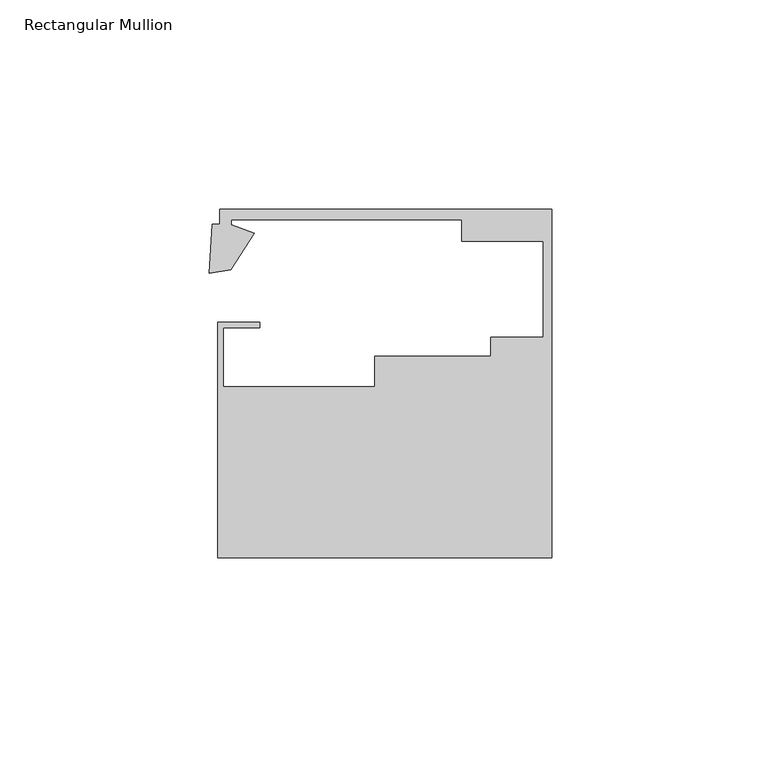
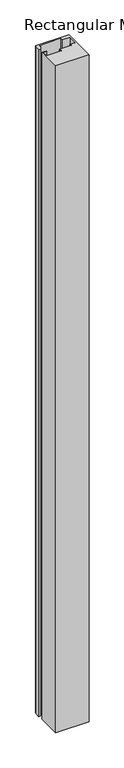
"""IFC4 building model written with IfcOpenShell, lengths in millimetres: member geometry, Rectangular Mullion : Danpal_NM_End-Mullion_B1."""

from ifc_helpers import new_model, si_unit, frame, origin, place, context, project, spatial, polyline, outline, extrude, source, transform, mapped, element, save


def rectangular_mullion_ef4c3dbc(model_context):
    return source(origin(), model_context, "Body", "SweptSolid", [
        extrude(outline(polyline([(0.0, -68.4940825), (-79.7784606, -68.4940825), (-79.7784606, -12.280939), (-69.8282946, -12.280939), (-69.8282946, -13.5916994), (-78.4582695, -13.5916994), (-78.4582695, -27.6399085), (-42.2578709, -27.6399085), (-42.2684147, -20.3894746), (-14.6000003, -20.3492381), (-14.6000003, -15.7940824), (-2.0000001, -15.7940824), (-2.0000001, 7.1181946), (-21.5478166, 7.1181946), (-21.5478166, 12.3181946), (-76.6478166, 12.3181946), (-76.6478166, 11.1168176), (-71.0577359, 9.0180613), (-76.7540801, 0.319325), (-81.8779002, -0.484903), (-81.1597999, 11.1413992), (-79.3474874, 11.1413992), (-79.3474874, 14.8003189), (0.0, 14.8051514), (0.0, -68.4940825)])), frame((0.0, 0.0, -1684.8416832), z_axis=(0.0, 0.0, 1.0), x_axis=(1.0, 0.0, 0.0)), (0.0, 0.0, 1.0), 1684.8416832),
    ])


if __name__ == "__main__":
    model = new_model("IFC4")
    model_context = context("Model", 3, world=origin())
    ifc_project = project(units=[si_unit("LENGTHUNIT", "METRE", prefix="MILLI")], contexts=[model_context])
    site = spatial("IfcSite", under=ifc_project)
    building = spatial("IfcBuilding", under=site)
    placement = place(None, origin())
    rectangular_mullion_shape = rectangular_mullion_ef4c3dbc(model_context)
    element("IfcMember", 1, ObjectType="Rectangular Mullion : Danpal_NM_End-Mullion_B1", at=placement, inside=building, context=model_context, shape_type="MappedRepresentation", body=[
        mapped(rectangular_mullion_shape, transform((0.0, 0.0, 0.0), x_axis=(1.0, 0.0, 0.0), y_axis=(0.0, 1.0, 0.0), z_axis=(0.0, 0.0, 1.0))),
    ])
    save(model, "model.ifc")
